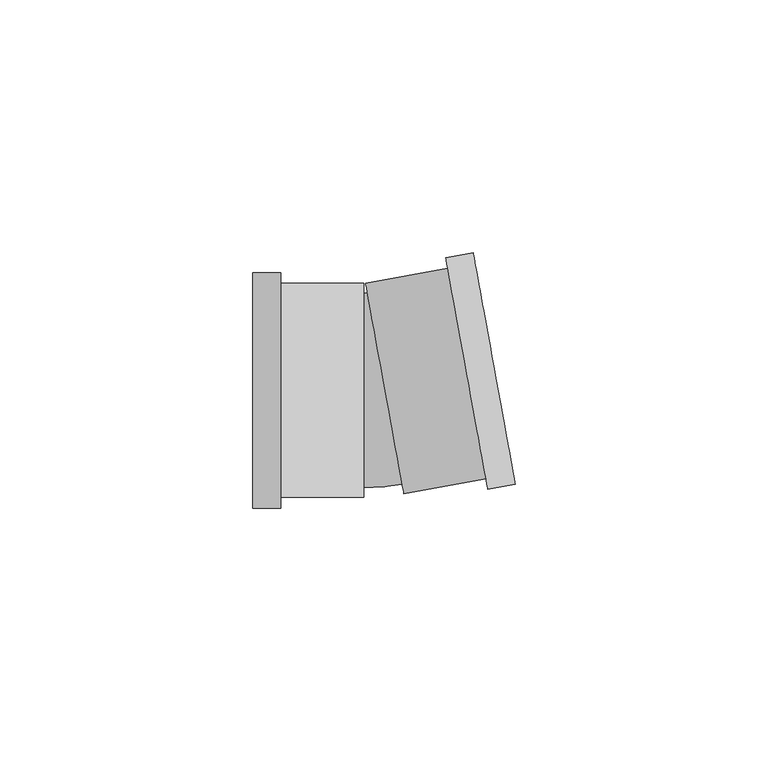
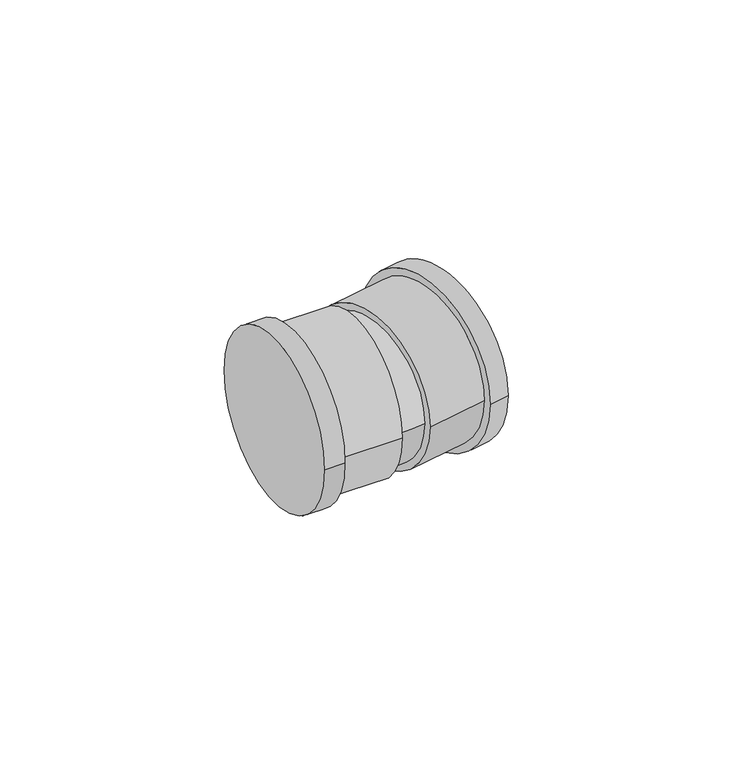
"""IFC4 building model written with IfcOpenShell, lengths in millimetres: pipe fitting geometry, Cotovelo - PVC - CW : Padrão."""

from ifc_helpers import new_model, si_unit, point, frame, origin, place, context, project, spatial, circle_curve, ellipse_curve, trimmed, source, transform, mapped, element, save
from ifc_brep_helpers import plane_surface, cylinder_surface, revolved_surface, advanced_brep


def pipe_fitting_a769a936(model_context):
    return source(origin(), model_context, "Body", "AdvancedBrep", [
        advanced_brep(
        [(-24.0780319, -23.2925, 0.0), (-24.0780319, 23.2925, 0.0), (-18.5780319, -23.2925, 0.0), (-18.5780319, 23.2925, 0.0), (-18.5780319, -21.175, 0.0), (-18.5780319, 21.175, 0.0), (-2.0780319, 21.175, 0.0), (-2.0780319, -21.175, 0.0), (-2.0780319, -19.25, 0.0), (-2.0780319, 19.25, 0.0), (-1.4058994, 19.3107266, 0.0), (5.494661, -18.5658131, 0.0), (5.839689, -20.4596401, 0.0), (-1.7509275, 21.2045536, 0.0), (19.5132787, 27.2309407, 0.0), (27.8629568, -18.5996724, 0.0), (22.0724918, -17.5022571, 0.0), (14.4818753, 24.1619367, 0.0), (14.1023445, 26.2451464, 0.0), (22.4520226, -19.5854668, 0.0)],
        [
            (0, 1, circle_curve(frame((-24.0780319, 0.0, 0.0), z_axis=(-1.0, 0.0, 0.0), x_axis=(0.0, 1.0, 0.0)), 23.2925)),
            (1, 0, circle_curve(frame((-24.0780319, 0.0, 0.0), z_axis=(-1.0, 0.0, 0.0), x_axis=(0.0, 1.0, 0.0)), 23.2925)),
            (2, 3, circle_curve(frame((-18.5780319, 0.0, 0.0), z_axis=(1.0, 0.0, 0.0), x_axis=(0.0, 1.0, 0.0)), 23.2925)),
            (3, 2, circle_curve(frame((-18.5780319, 0.0, 0.0), z_axis=(1.0, 0.0, 0.0), x_axis=(0.0, 1.0, 0.0)), 23.2925)),
            (4, 5, circle_curve(frame((-18.5780319, 0.0, 0.0), z_axis=(-1.0, 0.0, 0.0), x_axis=(0.0, -1.0, 0.0)), 21.175)),
            (5, 4, circle_curve(frame((-18.5780319, 0.0, 0.0), z_axis=(-1.0, 0.0, 0.0), x_axis=(0.0, -1.0, 0.0)), 21.175)),
            (0, 2),
            (3, 1),
            (6, 7, circle_curve(frame((-2.0780319, 0.0, 0.0), z_axis=(1.0, 0.0, 0.0), x_axis=(0.0, -1.0, 0.0)), 21.175)),
            (7, 6, circle_curve(frame((-2.0780319, 0.0, 0.0), z_axis=(1.0, 0.0, 0.0), x_axis=(0.0, -1.0, 0.0)), 21.175)),
            (8, 9, circle_curve(frame((-2.0780319, 0.0, 0.0), z_axis=(-1.0, 0.0, 0.0), x_axis=(0.0, 1.0, 0.0)), 19.25)),
            (9, 8, circle_curve(frame((-2.0780319, 0.0, 0.0), z_axis=(-1.0, 0.0, 0.0), x_axis=(0.0, 1.0, 0.0)), 19.25)),
            (6, 5),
            (4, 7),
            (10, 9, circle_curve(frame((-2.0780319, 23.0, 0.0), z_axis=(0.0, 0.0, -1.0), x_axis=(0.0, -1.0, 0.0)), 3.75)),
            (8, 11, circle_curve(frame((-2.0780319, 23.0, 0.0), z_axis=(0.0, 0.0, 1.0), x_axis=(0.0, -1.0, 0.0)), 42.25)),
            (11, 10, circle_curve(frame((2.0443808, 0.3724568, 0.0), z_axis=(-0.9838062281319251, -0.17923533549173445, 0.0), x_axis=(-0.17923533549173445, 0.9838062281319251, 0.0)), 19.25)),
            (10, 11, circle_curve(frame((2.0443808, 0.3724568, 0.0), z_axis=(-0.9838062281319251, -0.17923533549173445, 0.0), x_axis=(-0.17923533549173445, 0.9838062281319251, 0.0)), 19.25)),
            (12, 13, circle_curve(frame((2.0443808, 0.3724568, 0.0), z_axis=(-0.9838062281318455, -0.1792353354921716, 0.0), x_axis=(-0.1792353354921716, 0.9838062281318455, 0.0)), 21.175)),
            (13, 12, circle_curve(frame((2.0443808, 0.3724568, 0.0), z_axis=(-0.9838062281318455, -0.1792353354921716, 0.0), x_axis=(-0.1792353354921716, 0.9838062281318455, 0.0)), 21.175)),
            (14, 15, circle_curve(frame((23.6881178, 4.3156341, 0.0), z_axis=(0.9838062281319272, 0.17923533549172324, 0.0), x_axis=(0.17923533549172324, -0.9838062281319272, 0.0)), 23.2925)),
            (15, 14, circle_curve(frame((23.6881178, 4.3156341, 0.0), z_axis=(0.9838062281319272, 0.17923533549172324, 0.0), x_axis=(0.17923533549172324, -0.9838062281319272, 0.0)), 23.2925)),
            (12, 16),
            (16, 17, circle_curve(frame((18.2771835, 3.3298398, 0.0), z_axis=(-0.9838062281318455, -0.1792353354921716, 0.0), x_axis=(-0.1792353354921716, 0.9838062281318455, 0.0)), 21.175)),
            (17, 13),
            (17, 16, circle_curve(frame((18.2771835, 3.3298398, 0.0), z_axis=(-0.9838062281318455, -0.1792353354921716, 0.0), x_axis=(-0.1792353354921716, 0.9838062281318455, 0.0)), 21.175)),
            (18, 19, circle_curve(frame((18.2771835, 3.3298398, 0.0), z_axis=(-0.9838062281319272, -0.17923533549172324, 0.0), x_axis=(0.17923533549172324, -0.9838062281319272, 0.0)), 23.2925)),
            (19, 18, circle_curve(frame((18.2771835, 3.3298398, 0.0), z_axis=(-0.9838062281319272, -0.17923533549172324, 0.0), x_axis=(0.17923533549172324, -0.9838062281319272, 0.0)), 23.2925)),
            (14, 18),
            (19, 15),
        ],
        [
            plane_surface(frame((-24.0780319, 0.0, 0.0), z_axis=(-1.0, 0.0, 0.0), x_axis=(0.0, 0.0, 1.0))),
            plane_surface(frame((-18.5780319, 0.0, 0.0), z_axis=(1.0, 0.0, 0.0), x_axis=(0.0, 0.0, 1.0))),
            cylinder_surface(frame((-24.0780319, 0.0, 0.0), z_axis=(-1.0, 0.0, 0.0), x_axis=(0.0, 1.0, 0.0)), 23.2925),
            plane_surface(frame((-2.0780319, 0.0, 0.0), z_axis=(1.0, 0.0, 0.0), x_axis=(0.0, 0.0, 1.0))),
            cylinder_surface(frame((-2.0780319, 0.0, 0.0), z_axis=(1.0, 0.0, 0.0), x_axis=(0.0, -1.0, 0.0)), 21.175),
            revolved_surface(trimmed(ellipse_curve(frame((-2.0780319, 0.0, 0.0), z_axis=(-1.0, 0.0, 0.0), x_axis=(0.0, 1.0, 0.0)), 19.25, 19.25), [point((-2.0780319, -19.25, 0.0))], [point((-2.0780319, 19.25, 0.0))], True, "CARTESIAN"), (-2.0780319, 23.0, 0.0), (0.0, 0.0, 1.0)),
            revolved_surface(trimmed(ellipse_curve(frame((-2.0780319, 0.0, 0.0), z_axis=(-1.0, 0.0, 0.0), x_axis=(0.0, 1.0, 0.0)), 19.25, 19.25), [point((-2.0780319, 19.25, 0.0))], [point((-2.0780319, -19.25, 0.0))], True, "CARTESIAN"), (-2.0780319, 23.0, 0.0), (0.0, 0.0, 1.0)),
            plane_surface(frame((2.0443808, 0.3724568, 0.0), z_axis=(-0.9838062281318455, -0.1792353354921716, 0.0), x_axis=(0.0, 0.0, 1.0))),
            plane_surface(frame((23.6881178, 4.3156341, 0.0), z_axis=(0.9838062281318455, 0.1792353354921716, 0.0), x_axis=(0.0, 0.0, 1.0))),
            cylinder_surface(frame((2.0443808, 0.3724568, 0.0), z_axis=(-0.9838062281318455, -0.1792353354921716, 0.0), x_axis=(-0.1792353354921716, 0.9838062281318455, 0.0)), 21.175),
            plane_surface(frame((18.2771835, 3.3298398, 0.0), z_axis=(-0.9838062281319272, -0.17923533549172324, 0.0), x_axis=(0.0, 0.0, 1.0))),
            cylinder_surface(frame((23.6881178, 4.3156341, 0.0), z_axis=(0.9838062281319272, 0.17923533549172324, 0.0), x_axis=(0.17923533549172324, -0.9838062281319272, 0.0)), 23.2925),
        ],
        [
            (0, [[1, 2]]),
            (1, [[3, 4], [5, 6]]),
            (2, [[-1, 7, -4, 8]]),
            (2, [[-2, -8, -3, -7]]),
            (3, [[9, 10], [11, 12]]),
            (4, [[-9, 13, -5, 14]]),
            (4, [[-10, -14, -6, -13]]),
            (5, [[15, -11, 16, 17]]),
            (6, [[-15, 18, -16, -12]]),
            (7, [[19, 20], [-17, -18]]),
            (8, [[21, 22]]),
            (9, [[-19, 23, 24, 25]]),
            (9, [[-20, -25, 26, -23]]),
            (10, [[27, 28], [-24, -26]]),
            (11, [[-21, 29, -28, 30]]),
            (11, [[-22, -30, -27, -29]]),
        ],
    ),
    ])


if __name__ == "__main__":
    model = new_model("IFC4")
    model_context = context("Model", 3, world=origin())
    ifc_project = project(units=[si_unit("LENGTHUNIT", "METRE", prefix="MILLI")], contexts=[model_context])
    site = spatial("IfcSite", under=ifc_project)
    building = spatial("IfcBuilding", under=site)
    placement = place(None, origin())
    pipe_fitting_shape = pipe_fitting_a769a936(model_context)
    element("IfcPipeFitting", 1, ObjectType="Cotovelo - PVC - CW : Padrão", at=placement, inside=building, context=model_context, shape_type="MappedRepresentation", body=[
        mapped(pipe_fitting_shape, transform((0.0, 0.0, 0.0), x_axis=(1.0, 0.0, 0.0), y_axis=(0.0, 1.0, 0.0), z_axis=(0.0, 0.0, 1.0))),
    ])
    save(model, "model.ifc")
